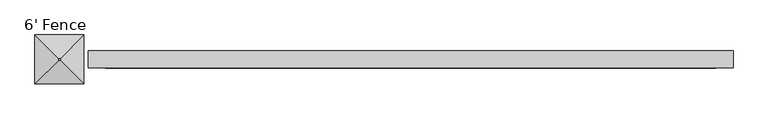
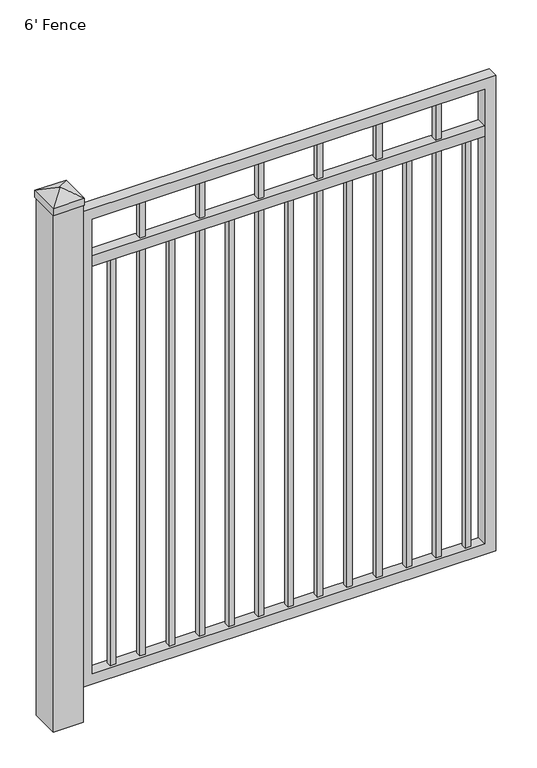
"""IFC4 building model written with IfcOpenShell, lengths in millimetres: proxy geometry, Ornamental_Gate_5113 : 6' Fence."""

from ifc_helpers import new_model, si_unit, frame, origin, origin_with_axes, place, context, project, spatial, polyline, outline, extrude, faceted_brep, source, transform, mapped, element, save


def proxy_6_fence_ff0b9ed4(model_context):
    return source(origin(), model_context, "Body", "SolidModel", [
        extrude(outline(polyline([(1406.525, -9.525), (1387.475, -9.525), (1387.475, 9.525), (1406.525, 9.525), (1406.525, -9.525)])), frame((0.0, 0.0, 139.7), z_axis=(0.0, 0.0, 1.0), x_axis=(1.0, 0.0, 0.0)), (0.0, 0.0, 1.0), 1479.55),
        extrude(outline(polyline([(1304.925, -9.525), (1285.875, -9.525), (1285.875, 9.525), (1304.925, 9.525), (1304.925, -9.525)])), frame((0.0, 0.0, 139.7), z_axis=(0.0, 0.0, 1.0), x_axis=(1.0, 0.0, 0.0)), (0.0, 0.0, 1.0), 1479.55),
        extrude(outline(polyline([(1203.325, -9.525), (1184.275, -9.525), (1184.275, 9.525), (1203.325, 9.525), (1203.325, -9.525)])), frame((0.0, 0.0, 139.7), z_axis=(0.0, 0.0, 1.0), x_axis=(1.0, 0.0, 0.0)), (0.0, 0.0, 1.0), 1479.55),
        extrude(outline(polyline([(1101.725, -9.525), (1082.675, -9.525), (1082.675, 9.525), (1101.725, 9.525), (1101.725, -9.525)])), frame((0.0, 0.0, 139.7), z_axis=(0.0, 0.0, 1.0), x_axis=(1.0, 0.0, 0.0)), (0.0, 0.0, 1.0), 1479.55),
        extrude(outline(polyline([(1000.125, -9.525), (981.075, -9.525), (981.075, 9.525), (1000.125, 9.525), (1000.125, -9.525)])), frame((0.0, 0.0, 139.7), z_axis=(0.0, 0.0, 1.0), x_axis=(1.0, 0.0, 0.0)), (0.0, 0.0, 1.0), 1479.55),
        extrude(outline(polyline([(898.525, -9.525), (879.475, -9.525), (879.475, 9.525), (898.525, 9.525), (898.525, -9.525)])), frame((0.0, 0.0, 139.7), z_axis=(0.0, 0.0, 1.0), x_axis=(1.0, 0.0, 0.0)), (0.0, 0.0, 1.0), 1479.55),
        extrude(outline(polyline([(1304.925, -9.525), (1285.875, -9.525), (1285.875, 9.525), (1304.925, 9.525), (1304.925, -9.525)])), frame((0.0, 0.0, 1657.35), z_axis=(0.0, 0.0, 1.0), x_axis=(1.0, 0.0, 0.0)), (0.0, 0.0, 1.0), 133.35),
        extrude(outline(polyline([(1101.725, -9.525), (1082.675, -9.525), (1082.675, 9.525), (1101.725, 9.525), (1101.725, -9.525)])), frame((0.0, 0.0, 1657.35), z_axis=(0.0, 0.0, 1.0), x_axis=(1.0, 0.0, 0.0)), (0.0, 0.0, 1.0), 133.35),
        extrude(outline(polyline([(898.525, -9.525), (879.475, -9.525), (879.475, 9.525), (898.525, 9.525), (898.525, -9.525)])), frame((0.0, 0.0, 1657.35), z_axis=(0.0, 0.0, 1.0), x_axis=(1.0, 0.0, 0.0)), (0.0, 0.0, 1.0), 133.35),
        extrude(outline(polyline([(796.925, -9.525), (777.875, -9.525), (777.875, 9.525), (796.925, 9.525), (796.925, -9.525)])), frame((0.0, 0.0, 139.7), z_axis=(0.0, 0.0, 1.0), x_axis=(1.0, 0.0, 0.0)), (0.0, 0.0, 1.0), 1479.55),
        extrude(outline(polyline([(695.325, -9.525), (676.275, -9.525), (676.275, 9.525), (695.325, 9.525), (695.325, -9.525)])), frame((0.0, 0.0, 139.7), z_axis=(0.0, 0.0, 1.0), x_axis=(1.0, 0.0, 0.0)), (0.0, 0.0, 1.0), 1479.55),
        extrude(outline(polyline([(593.725, -9.525), (574.675, -9.525), (574.675, 9.525), (593.725, 9.525), (593.725, -9.525)])), frame((0.0, 0.0, 139.7), z_axis=(0.0, 0.0, 1.0), x_axis=(1.0, 0.0, 0.0)), (0.0, 0.0, 1.0), 1479.55),
        extrude(outline(polyline([(492.125, -9.525), (473.075, -9.525), (473.075, 9.525), (492.125, 9.525), (492.125, -9.525)])), frame((0.0, 0.0, 139.7), z_axis=(0.0, 0.0, 1.0), x_axis=(1.0, 0.0, 0.0)), (0.0, 0.0, 1.0), 1479.55),
        extrude(outline(polyline([(390.525, -9.525), (371.475, -9.525), (371.475, 9.525), (390.525, 9.525), (390.525, -9.525)])), frame((0.0, 0.0, 139.7), z_axis=(0.0, 0.0, 1.0), x_axis=(1.0, 0.0, 0.0)), (0.0, 0.0, 1.0), 1479.55),
        extrude(outline(polyline([(288.925, -9.525), (269.875, -9.525), (269.875, 9.525), (288.925, 9.525), (288.925, -9.525)])), frame((0.0, 0.0, 139.7), z_axis=(0.0, 0.0, 1.0), x_axis=(1.0, 0.0, 0.0)), (0.0, 0.0, 1.0), 1479.55),
        extrude(outline(polyline([(695.325, -9.525), (676.275, -9.525), (676.275, 9.525), (695.325, 9.525), (695.325, -9.525)])), frame((0.0, 0.0, 1657.35), z_axis=(0.0, 0.0, 1.0), x_axis=(1.0, 0.0, 0.0)), (0.0, 0.0, 1.0), 133.35),
        extrude(outline(polyline([(492.125, -9.525), (473.075, -9.525), (473.075, 9.525), (492.125, 9.525), (492.125, -9.525)])), frame((0.0, 0.0, 1657.35), z_axis=(0.0, 0.0, 1.0), x_axis=(1.0, 0.0, 0.0)), (0.0, 0.0, 1.0), 133.35),
        extrude(outline(polyline([(288.925, -9.525), (269.875, -9.525), (269.875, 9.525), (288.925, 9.525), (288.925, -9.525)])), frame((0.0, 0.0, 1657.35), z_axis=(0.0, 0.0, 1.0), x_axis=(1.0, 0.0, 0.0)), (0.0, 0.0, 1.0), 133.35),
        extrude(outline(polyline([(187.325, -9.525), (168.275, -9.525), (168.275, 9.525), (187.325, 9.525), (187.325, -9.525)])), frame((0.0, 0.0, 139.7), z_axis=(0.0, 0.0, 1.0), x_axis=(1.0, 0.0, 0.0)), (0.0, 0.0, 1.0), 1479.55),
        faceted_brep([(53.975, 53.975, 1879.6), (53.975, -53.975, 1879.6), (-53.975, -53.975, 1879.6), (-53.975, 53.975, 1879.6), (-53.975, 53.975, 1905.0), (53.975, 53.975, 1905.0), (-53.975, -53.975, 1905.0), (53.975, -53.975, 1905.0), (1.6410856, 1.6859151, 1930.4), (-1.5776872, 1.6859151, 1930.4), (-1.5776872, -1.6225167, 1930.4), (1.6410856, -1.6225167, 1930.4)], [[[0, 1, 2, 3]], [[0, 3, 4, 5]], [[3, 2, 6, 4]], [[2, 1, 7, 6]], [[1, 0, 5, 7]], [[8, 9, 10, 11]], [[9, 8, 5, 4]], [[10, 9, 4, 6]], [[11, 10, 6, 7]], [[8, 11, 7, 5]]]),
        extrude(outline(polyline([(50.8, -50.8), (-50.8, -50.8), (-50.8, 50.8), (50.8, 50.8), (50.8, -50.8)])), origin_with_axes(), (0.0, 0.0, 1.0), 1905.0),
        extrude(outline(polyline([(1449.2, 19.05), (1449.2, -19.05), (101.6, -19.05), (101.6, 19.05), (1449.2, 19.05)])), frame((0.0, 0.0, 1619.25), z_axis=(0.0, 0.0, 1.0), x_axis=(1.0, 0.0, 0.0)), (0.0, 0.0, 1.0), 38.1),
        extrude(outline(polyline([(1828.8, 1487.3), (1828.8, 63.5), (101.6, 63.5), (101.6, 1487.3), (1828.8, 1487.3)]), holes=[polyline([(139.7, 1449.2), (139.7, 101.6), (1790.7, 101.6), (1790.7, 1449.2), (139.7, 1449.2)])]), frame((0.0, -19.05, 0.0), z_axis=(0.0, 1.0, 0.0), x_axis=(0.0, 0.0, 1.0)), (0.0, 0.0, 1.0), 38.1),
    ])


if __name__ == "__main__":
    model = new_model("IFC4")
    model_context = context("Model", 3, world=origin())
    ifc_project = project(units=[si_unit("LENGTHUNIT", "METRE", prefix="MILLI")], contexts=[model_context])
    site = spatial("IfcSite", under=ifc_project)
    building = spatial("IfcBuilding", under=site)
    placement = place(None, origin())
    proxy_6_fence_shape = proxy_6_fence_ff0b9ed4(model_context)
    element("IfcBuildingElementProxy", 1, Name="Ornamental_Gate_5113 : 6' Fence", ObjectType="Ornamental_Gate_5113 : 6' Fence", at=placement, inside=building, context=model_context, shape_type="MappedRepresentation", body=[
        mapped(proxy_6_fence_shape, transform((0.0, 0.0, 0.0), x_axis=(1.0, 0.0, 0.0), y_axis=(0.0, 1.0, 0.0), z_axis=(0.0, 0.0, 1.0))),
    ])
    save(model, "model.ifc")
